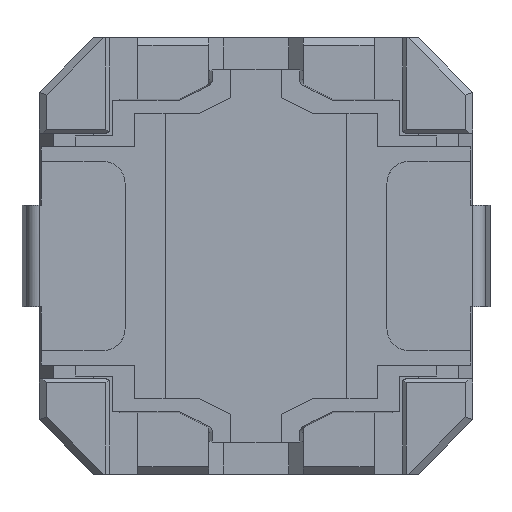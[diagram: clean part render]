
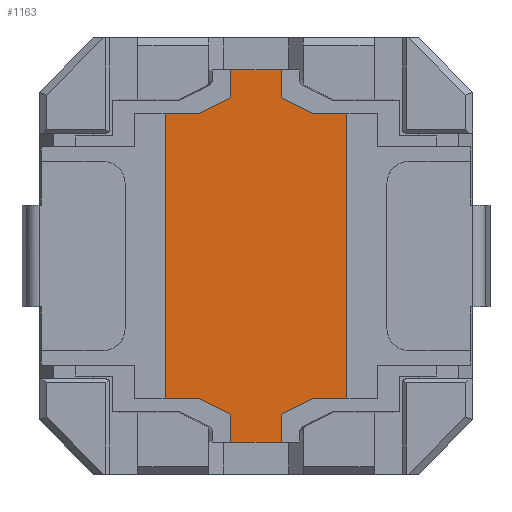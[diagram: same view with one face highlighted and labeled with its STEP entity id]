
A CAD part, front view. The second image highlights one B-rep face of the part: STEP entity #1163.
In plain terms, the highlighted planar face has unit normal (0, -1, 0).
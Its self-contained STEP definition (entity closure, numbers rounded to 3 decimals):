
#152 = VECTOR ( 'NONE', #10659, 1000. ) ;
#275 = ORIENTED_EDGE ( 'NONE', *, *, #4653, .F. ) ;
#375 = VERTEX_POINT ( 'NONE', #2224 ) ;
#387 = VECTOR ( 'NONE', #2755, 1000. ) ;
#411 = CARTESIAN_POINT ( 'NONE',  ( 0.779, -2.92, -1.96 ) ) ;
#495 = CARTESIAN_POINT ( 'NONE',  ( 1.25, -2.92, -2.56 ) ) ;
#550 = VECTOR ( 'NONE', #11665, 1000. ) ;
#883 = CARTESIAN_POINT ( 'NONE',  ( -0.779, -2.92, 1.96 ) ) ;
#916 = CARTESIAN_POINT ( 'NONE',  ( 0.35, -2.92, -2.56 ) ) ;
#944 = VERTEX_POINT ( 'NONE', #12587 ) ;
#966 = DIRECTION ( 'NONE',  ( 0.894, 0., 0.447 ) ) ;
#1075 = ORIENTED_EDGE ( 'NONE', *, *, #10437, .F. ) ;
#1163 = ADVANCED_FACE ( 'NONE', ( #1604 ), #6882, .F. ) ;
#1295 = LINE ( 'NONE', #1464, #8903 ) ;
#1338 = VERTEX_POINT ( 'NONE', #3797 ) ;
#1375 = DIRECTION ( 'NONE',  ( 0., 0., 1. ) ) ;
#1443 = DIRECTION ( 'NONE',  ( -0.894, 0., -0.447 ) ) ;
#1464 = CARTESIAN_POINT ( 'NONE',  ( -0.35, -2.92, 0. ) ) ;
#1604 = FACE_OUTER_BOUND ( 'NONE', #7658, .T. ) ;
#1633 = EDGE_CURVE ( 'NONE', #3931, #6686, #2136, .T. ) ;
#1743 = VERTEX_POINT ( 'NONE', #9076 ) ;
#1874 = VERTEX_POINT ( 'NONE', #6127 ) ;
#2136 = LINE ( 'NONE', #10907, #4491 ) ;
#2201 = EDGE_CURVE ( 'NONE', #8353, #8399, #8158, .T. ) ;
#2224 = CARTESIAN_POINT ( 'NONE',  ( 0.779, -2.92, -1.96 ) ) ;
#2636 = CARTESIAN_POINT ( 'NONE',  ( -1.25, -2.92, -1.96 ) ) ;
#2755 = DIRECTION ( 'NONE',  ( 0., 0., -1. ) ) ;
#2784 = EDGE_CURVE ( 'NONE', #1874, #944, #1295, .T. ) ;
#2866 = DIRECTION ( 'NONE',  ( 1., 0., 0. ) ) ;
#3313 = VECTOR ( 'NONE', #8556, 1000. ) ;
#3337 = LINE ( 'NONE', #12495, #387 ) ;
#3378 = CARTESIAN_POINT ( 'NONE',  ( 0.35, -2.92, 2.56 ) ) ;
#3486 = EDGE_CURVE ( 'NONE', #11619, #1874, #4208, .T. ) ;
#3487 = ORIENTED_EDGE ( 'NONE', *, *, #5236, .F. ) ;
#3552 = ORIENTED_EDGE ( 'NONE', *, *, #4244, .F. ) ;
#3608 = CARTESIAN_POINT ( 'NONE',  ( 1.25, -2.92, -1.96 ) ) ;
#3614 = VERTEX_POINT ( 'NONE', #11624 ) ;
#3797 = CARTESIAN_POINT ( 'NONE',  ( 1.25, -2.92, -1.96 ) ) ;
#3813 = ORIENTED_EDGE ( 'NONE', *, *, #7163, .F. ) ;
#3895 = CARTESIAN_POINT ( 'NONE',  ( 1.25, -2.92, 1.96 ) ) ;
#3931 = VERTEX_POINT ( 'NONE', #6052 ) ;
#4108 = LINE ( 'NONE', #411, #6396 ) ;
#4124 = ORIENTED_EDGE ( 'NONE', *, *, #2201, .F. ) ;
#4208 = LINE ( 'NONE', #883, #6506 ) ;
#4244 = EDGE_CURVE ( 'NONE', #8399, #4806, #11182, .T. ) ;
#4400 = VERTEX_POINT ( 'NONE', #2636 ) ;
#4491 = VECTOR ( 'NONE', #10785, 1000. ) ;
#4598 = CARTESIAN_POINT ( 'NONE',  ( -0.35, -2.92, 0. ) ) ;
#4600 = LINE ( 'NONE', #11542, #9558 ) ;
#4653 = EDGE_CURVE ( 'NONE', #12427, #3931, #12518, .T. ) ;
#4759 = ORIENTED_EDGE ( 'NONE', *, *, #2784, .F. ) ;
#4787 = CARTESIAN_POINT ( 'NONE',  ( 1.25, -2.92, -1.96 ) ) ;
#4806 = VERTEX_POINT ( 'NONE', #6339 ) ;
#5200 = CARTESIAN_POINT ( 'NONE',  ( -0.35, -2.92, -2.56 ) ) ;
#5235 = CARTESIAN_POINT ( 'NONE',  ( -1.25, -2.92, 0. ) ) ;
#5236 = EDGE_CURVE ( 'NONE', #1338, #375, #5494, .T. ) ;
#5306 = LINE ( 'NONE', #495, #7931 ) ;
#5457 = DIRECTION ( 'NONE',  ( 1., 0., 0. ) ) ;
#5494 = LINE ( 'NONE', #3608, #10411 ) ;
#5498 = DIRECTION ( 'NONE',  ( 0., 0., 1. ) ) ;
#5565 = CARTESIAN_POINT ( 'NONE',  ( 0.779, -2.92, 1.96 ) ) ;
#5640 = DIRECTION ( 'NONE',  ( 0., 0., -1. ) ) ;
#6052 = CARTESIAN_POINT ( 'NONE',  ( -0.35, -2.92, -2.175 ) ) ;
#6127 = CARTESIAN_POINT ( 'NONE',  ( -0.35, -2.92, 2.175 ) ) ;
#6339 = CARTESIAN_POINT ( 'NONE',  ( 1.25, -2.92, 1.96 ) ) ;
#6358 = EDGE_CURVE ( 'NONE', #1743, #11619, #11866, .T. ) ;
#6396 = VECTOR ( 'NONE', #1443, 1000. ) ;
#6446 = VECTOR ( 'NONE', #5640, 1000. ) ;
#6450 = EDGE_CURVE ( 'NONE', #1743, #4400, #6859, .T. ) ;
#6506 = VECTOR ( 'NONE', #966, 1000. ) ;
#6587 = EDGE_CURVE ( 'NONE', #375, #3614, #4108, .T. ) ;
#6591 = DIRECTION ( 'NONE',  ( 0., 0., 1. ) ) ;
#6637 = DIRECTION ( 'NONE',  ( 0., 1., 0. ) ) ;
#6675 = CARTESIAN_POINT ( 'NONE',  ( 1.25, -2.92, 0. ) ) ;
#6686 = VERTEX_POINT ( 'NONE', #9422 ) ;
#6708 = DIRECTION ( 'NONE',  ( 1., 0., 0. ) ) ;
#6859 = LINE ( 'NONE', #5235, #11716 ) ;
#6882 = PLANE ( 'NONE',  #10639 ) ;
#6987 = ORIENTED_EDGE ( 'NONE', *, *, #6358, .F. ) ;
#7135 = CARTESIAN_POINT ( 'NONE',  ( 1.25, -2.92, 1.96 ) ) ;
#7163 = EDGE_CURVE ( 'NONE', #7545, #8353, #9091, .T. ) ;
#7545 = VERTEX_POINT ( 'NONE', #3378 ) ;
#7565 = CARTESIAN_POINT ( 'NONE',  ( 0.35, -2.92, 0. ) ) ;
#7609 = ORIENTED_EDGE ( 'NONE', *, *, #9600, .F. ) ;
#7658 = EDGE_LOOP ( 'NONE', ( #3552, #4124, #3813, #1075, #4759, #8216, #6987, #12656, #7609, #11552, #275, #9950, #8087, #8191, #3487, #8311 ) ) ;
#7931 = VECTOR ( 'NONE', #12234, 1000. ) ;
#8059 = LINE ( 'NONE', #4787, #152 ) ;
#8087 = ORIENTED_EDGE ( 'NONE', *, *, #12119, .F. ) ;
#8158 = LINE ( 'NONE', #10681, #550 ) ;
#8191 = ORIENTED_EDGE ( 'NONE', *, *, #6587, .F. ) ;
#8214 = DIRECTION ( 'NONE',  ( 0., 0., -1. ) ) ;
#8216 = ORIENTED_EDGE ( 'NONE', *, *, #3486, .F. ) ;
#8311 = ORIENTED_EDGE ( 'NONE', *, *, #11746, .F. ) ;
#8353 = VERTEX_POINT ( 'NONE', #8496 ) ;
#8399 = VERTEX_POINT ( 'NONE', #5565 ) ;
#8496 = CARTESIAN_POINT ( 'NONE',  ( 0.35, -2.92, 2.175 ) ) ;
#8556 = DIRECTION ( 'NONE',  ( 0., 0., -1. ) ) ;
#8633 = VECTOR ( 'NONE', #5457, 1000. ) ;
#8903 = VECTOR ( 'NONE', #1375, 1000. ) ;
#9076 = CARTESIAN_POINT ( 'NONE',  ( -1.25, -2.92, 1.96 ) ) ;
#9091 = LINE ( 'NONE', #9574, #6446 ) ;
#9360 = VECTOR ( 'NONE', #2866, 1000. ) ;
#9422 = CARTESIAN_POINT ( 'NONE',  ( -0.779, -2.92, -1.96 ) ) ;
#9558 = VECTOR ( 'NONE', #6708, 1000. ) ;
#9574 = CARTESIAN_POINT ( 'NONE',  ( 0.35, -2.92, 0. ) ) ;
#9600 = EDGE_CURVE ( 'NONE', #6686, #4400, #8059, .T. ) ;
#9665 = VERTEX_POINT ( 'NONE', #916 ) ;
#9950 = ORIENTED_EDGE ( 'NONE', *, *, #12602, .F. ) ;
#10015 = VECTOR ( 'NONE', #5498, 1000. ) ;
#10411 = VECTOR ( 'NONE', #11416, 1000. ) ;
#10437 = EDGE_CURVE ( 'NONE', #944, #7545, #4600, .T. ) ;
#10639 = AXIS2_PLACEMENT_3D ( 'NONE', #6675, #6637, #6591 ) ;
#10659 = DIRECTION ( 'NONE',  ( -1., 0., 0. ) ) ;
#10681 = CARTESIAN_POINT ( 'NONE',  ( 0.35, -2.92, 2.175 ) ) ;
#10785 = DIRECTION ( 'NONE',  ( -0.894, 0., 0.447 ) ) ;
#10907 = CARTESIAN_POINT ( 'NONE',  ( -0.35, -2.92, -2.175 ) ) ;
#11182 = LINE ( 'NONE', #7135, #8633 ) ;
#11416 = DIRECTION ( 'NONE',  ( -1., 0., 0. ) ) ;
#11422 = LINE ( 'NONE', #7565, #3313 ) ;
#11542 = CARTESIAN_POINT ( 'NONE',  ( 1.25, -2.92, 2.56 ) ) ;
#11552 = ORIENTED_EDGE ( 'NONE', *, *, #1633, .F. ) ;
#11619 = VERTEX_POINT ( 'NONE', #12160 ) ;
#11624 = CARTESIAN_POINT ( 'NONE',  ( 0.35, -2.92, -2.175 ) ) ;
#11665 = DIRECTION ( 'NONE',  ( 0.894, 0., -0.447 ) ) ;
#11716 = VECTOR ( 'NONE', #8214, 1000. ) ;
#11746 = EDGE_CURVE ( 'NONE', #4806, #1338, #3337, .T. ) ;
#11866 = LINE ( 'NONE', #3895, #9360 ) ;
#12119 = EDGE_CURVE ( 'NONE', #3614, #9665, #11422, .T. ) ;
#12160 = CARTESIAN_POINT ( 'NONE',  ( -0.779, -2.92, 1.96 ) ) ;
#12234 = DIRECTION ( 'NONE',  ( -1., 0., 0. ) ) ;
#12427 = VERTEX_POINT ( 'NONE', #5200 ) ;
#12495 = CARTESIAN_POINT ( 'NONE',  ( 1.25, -2.92, 0. ) ) ;
#12518 = LINE ( 'NONE', #4598, #10015 ) ;
#12587 = CARTESIAN_POINT ( 'NONE',  ( -0.35, -2.92, 2.56 ) ) ;
#12602 = EDGE_CURVE ( 'NONE', #9665, #12427, #5306, .T. ) ;
#12656 = ORIENTED_EDGE ( 'NONE', *, *, #6450, .T. ) ;
